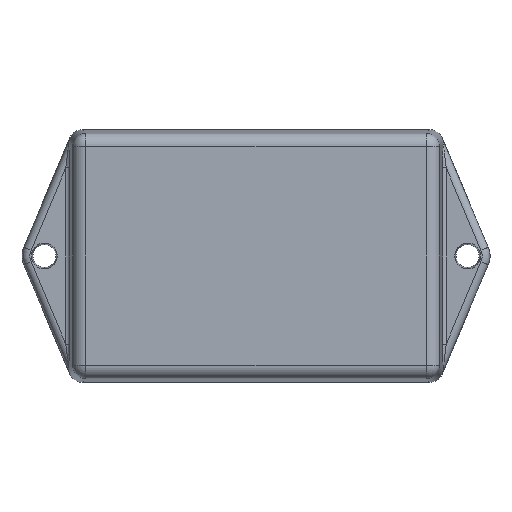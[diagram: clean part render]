
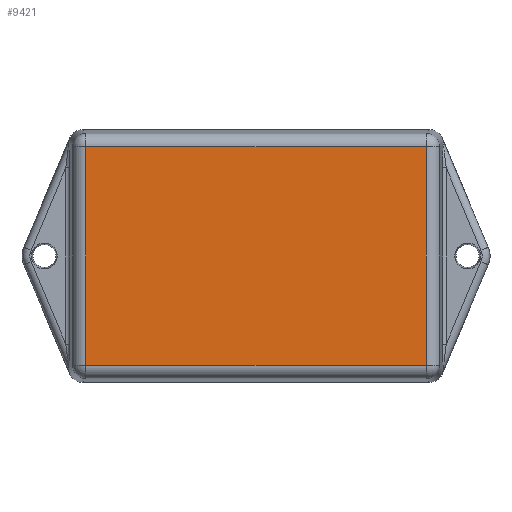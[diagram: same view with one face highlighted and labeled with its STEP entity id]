
A CAD part, front view. The second image highlights one B-rep face of the part: STEP entity #9421.
In plain terms, the highlighted planar face has unit normal (0, -1, 0).
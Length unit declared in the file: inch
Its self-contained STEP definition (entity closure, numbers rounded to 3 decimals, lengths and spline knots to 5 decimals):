
#2492 = CARTESIAN_POINT ( 'NONE',  ( 1.40594, -0.904, 0.90344 ) ) ;
#2536 = CARTESIAN_POINT ( 'NONE',  ( -1.40594, -0.904, -0.90344 ) ) ;
#2539 = CARTESIAN_POINT ( 'NONE',  ( 1.40594, -0.904, -0.90344 ) ) ;
#2739 = CARTESIAN_POINT ( 'NONE',  ( -1.40594, -0.904, 0.90344 ) ) ;
#3151 = VERTEX_POINT ( 'NONE', #2739 ) ;
#3483 = VECTOR ( 'NONE', #6604, 39.37008 ) ;
#3569 = LINE ( 'NONE', #6606, #3483 ) ;
#3876 = LINE ( 'NONE', #6755, #4016 ) ;
#3894 = VERTEX_POINT ( 'NONE', #2539 ) ;
#3895 = VERTEX_POINT ( 'NONE', #2536 ) ;
#3906 = FACE_OUTER_BOUND ( 'NONE', #8956, .T. ) ;
#3928 = VERTEX_POINT ( 'NONE', #2492 ) ;
#4016 = VECTOR ( 'NONE', #6753, 39.37008 ) ;
#5818 = CARTESIAN_POINT ( 'NONE',  ( 1.545, -0.904, 1.0425 ) ) ;
#5845 = PLANE ( 'NONE',  #7282 ) ;
#6604 = DIRECTION ( 'NONE',  ( -1., 0., 0. ) ) ;
#6606 = CARTESIAN_POINT ( 'NONE',  ( 1.545, -0.904, 0.90344 ) ) ;
#6628 = DIRECTION ( 'NONE',  ( 0., 0., 1. ) ) ;
#6633 = CARTESIAN_POINT ( 'NONE',  ( 1.40594, -0.904, 1.0425 ) ) ;
#6753 = DIRECTION ( 'NONE',  ( 1., 0., 0. ) ) ;
#6755 = CARTESIAN_POINT ( 'NONE',  ( 1.545, -0.904, -0.90344 ) ) ;
#7083 = DIRECTION ( 'NONE',  ( 0., 0., -1. ) ) ;
#7087 = CARTESIAN_POINT ( 'NONE',  ( -1.40594, -0.904, 1.0425 ) ) ;
#7195 = DIRECTION ( 'NONE',  ( 0., 0., -1. ) ) ;
#7197 = DIRECTION ( 'NONE',  ( 0., -1., 0. ) ) ;
#7282 = AXIS2_PLACEMENT_3D ( 'NONE', #5818, #7197, #7195 ) ;
#7323 = ORIENTED_EDGE ( 'NONE', *, *, #9396, .T. ) ;
#8178 = ORIENTED_EDGE ( 'NONE', *, *, #9546, .T. ) ;
#8475 = ORIENTED_EDGE ( 'NONE', *, *, #9399, .T. ) ;
#8765 = ORIENTED_EDGE ( 'NONE', *, *, #9523, .T. ) ;
#8956 = EDGE_LOOP ( 'NONE', ( #8765, #8475, #8178, #7323 ) ) ;
#9396 = EDGE_CURVE ( 'NONE', #3151, #3895, #9630, .T. ) ;
#9399 = EDGE_CURVE ( 'NONE', #3894, #3928, #9695, .T. ) ;
#9421 = ADVANCED_FACE ( 'NONE', ( #3906 ), #5845, .T. ) ;
#9523 = EDGE_CURVE ( 'NONE', #3895, #3894, #3876, .T. ) ;
#9546 = EDGE_CURVE ( 'NONE', #3928, #3151, #3569, .T. ) ;
#9629 = VECTOR ( 'NONE', #7083, 39.37008 ) ;
#9630 = LINE ( 'NONE', #7087, #9629 ) ;
#9652 = VECTOR ( 'NONE', #6628, 39.37008 ) ;
#9695 = LINE ( 'NONE', #6633, #9652 ) ;
